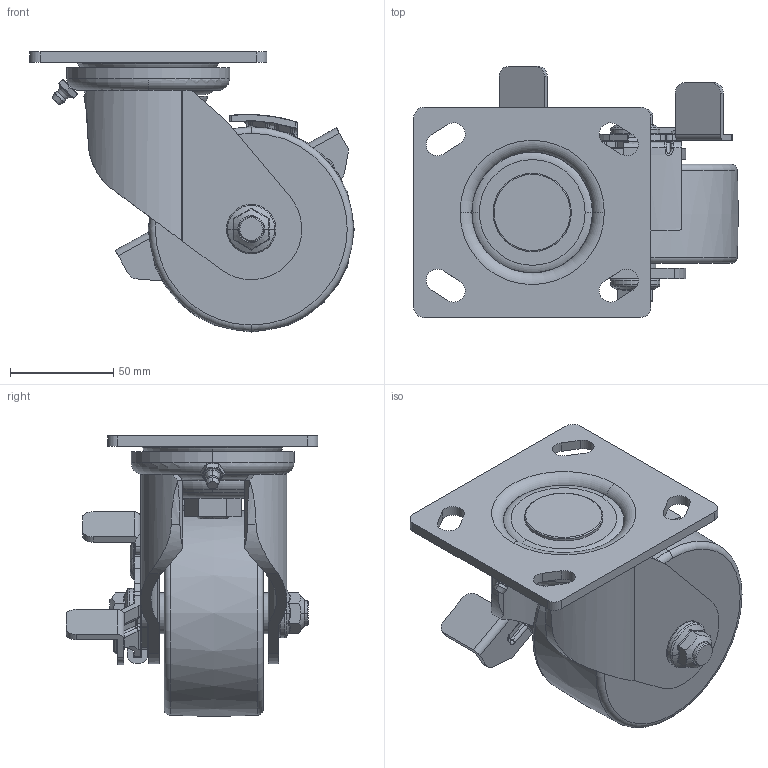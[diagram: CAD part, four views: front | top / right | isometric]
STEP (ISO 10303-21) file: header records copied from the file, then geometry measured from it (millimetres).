
FILE_DESCRIPTION((''),'2;1');
FILE_NAME('PM-100-BSF-NYD.stp','2013-04-30T11:11:03',(''),(''),'Mechanical Desktop 2009','Mechanical Desktop 2009',', , ');
FILE_SCHEMA(('CONFIG_CONTROL_DESIGN'));
Length unit declared in the file: millimetre
Products named in the file (2): PM-100-BSF-NYD; SF PLATE
Assembly tree (1 placements, depth 2):
  PM-100-BSF-NYD
    SF PLATE
Bounding box: 157.5 x 122 x 135.95 mm (x, y, z)
Volume: 613698.7 mm3; surface area: 114241.5 mm2
Topology: 1 solids, 1 shells, 556 faces, 1424 edges, 882 vertices
Faces by surface type: plane 180, cylinder 167, bspline 149, torus 40, cone 20
Entity records: 22994 total; most frequent: CARTESIAN_POINT 9910, ORIENTED_EDGE 2830, DIRECTION 2634, EDGE_CURVE 1415, AXIS2_PLACEMENT_3D 1020, VERTEX_POINT 880, EDGE_LOOP 595, VECTOR 594
